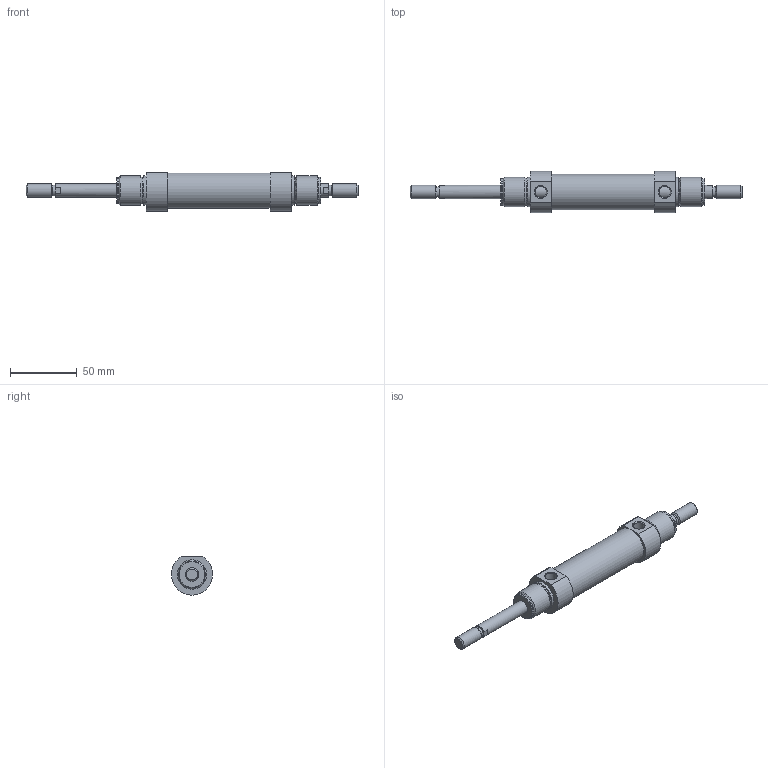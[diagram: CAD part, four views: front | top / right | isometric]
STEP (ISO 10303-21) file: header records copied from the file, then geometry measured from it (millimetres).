
FILE_DESCRIPTION( ( 'STEP AP203' ), '1' );
FILE_NAME( '//expscmdclustefs.cadenas.external/client_exchange/iodir/jobs/output/wkb68469396_no0/STEP/M101-025-0040-M__0__2_03.stp', ' ', ( ' ' ), ( ' ' ), 'PSStep 15.0.47', 'PARTsolutions', ' ' );
FILE_SCHEMA( ( 'CONFIG_CONTROL_DESIGN' ) );
Length unit declared in the file: millimetre
Products named in the file (3): M101-025-0040-M [0]; HI_M101-025-0040-M-[0]-z; HI_M101-025-0040-M-[0]-k
Assembly tree (2 placements, depth 2):
  M101-025-0040-M [0]
    HI_M101-025-0040-M-[0]-z
    HI_M101-025-0040-M-[0]-k
Bounding box: 249 x 31 x 28.79 mm (x, y, z)
Volume: 72293.7 mm3; surface area: 31761.9 mm2
Topology: 2 solids, 2 shells, 63 faces, 123 edges, 74 vertices
Faces by surface type: plane 28, cylinder 23, cone 10, torus 2
Full cylindrical faces by diameter (mm): 8.16 x2, 8.566 x2, 10 x6, 20.16 x4, 22 x4, 25 x2, 26.6 x1
Entity records: 1700 total; most frequent: CARTESIAN_POINT 390, DIRECTION 276, ORIENTED_EDGE 176, AXIS2_PLACEMENT_3D 124, EDGE_LOOP 112, EDGE_CURVE 88, FACE_OUTER_BOUND 86, VERTEX_POINT 72
